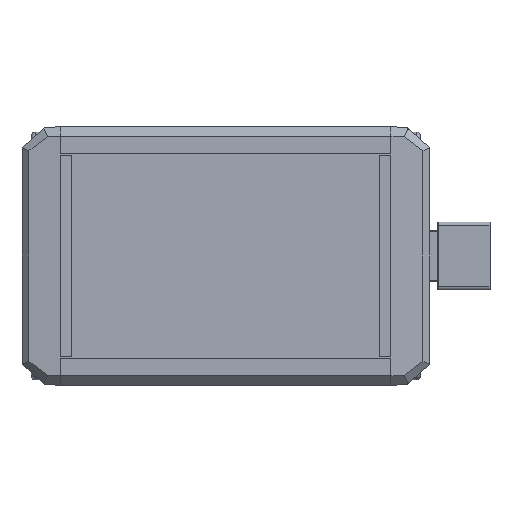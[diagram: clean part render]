
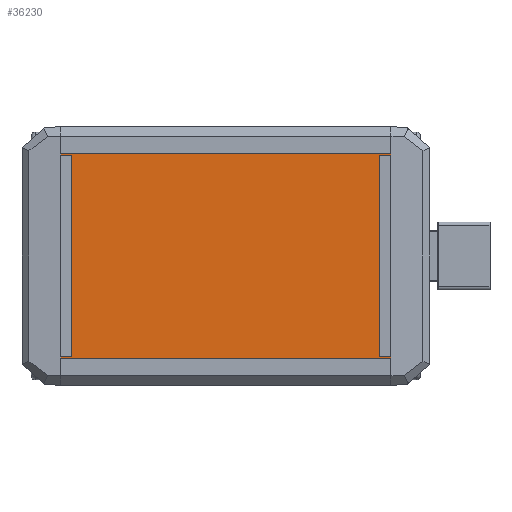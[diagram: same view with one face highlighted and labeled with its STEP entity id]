
A CAD part, front view. The second image highlights one B-rep face of the part: STEP entity #36230.
In plain terms, the highlighted planar face has unit normal (0, -1, 0) as drawn and (0, 1, 0) by its records, which use the part's own axes.
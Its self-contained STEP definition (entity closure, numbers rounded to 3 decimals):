
#36086=DIRECTION('',(-1.,0.,0.));
#36087=VECTOR('',#36086,34.6);
#36088=CARTESIAN_POINT('',(17.3,2.,-25.6));
#36089=LINE('',#36088,#36087);
#36107=DIRECTION('',(0.,0.,1.));
#36108=VECTOR('',#36107,51.2);
#36109=CARTESIAN_POINT('',(-17.3,2.,-25.6));
#36110=LINE('',#36109,#36108);
#36114=DIRECTION('',(0.,0.,1.));
#36115=VECTOR('',#36114,51.2);
#36116=CARTESIAN_POINT('',(17.3,2.,-25.6));
#36117=LINE('',#36116,#36115);
#36142=DIRECTION('',(-1.,0.,0.));
#36143=VECTOR('',#36142,34.6);
#36144=CARTESIAN_POINT('',(17.3,2.,25.6));
#36145=LINE('',#36144,#36143);
#36160=CARTESIAN_POINT('',(17.3,2.,-25.6));
#36161=VERTEX_POINT('',#36160);
#36162=CARTESIAN_POINT('',(-17.3,2.,-25.6));
#36163=VERTEX_POINT('',#36162);
#36168=CARTESIAN_POINT('',(17.3,2.,25.6));
#36169=VERTEX_POINT('',#36168);
#36170=CARTESIAN_POINT('',(-17.3,2.,25.6));
#36171=VERTEX_POINT('',#36170);
#36217=CARTESIAN_POINT('',(17.3,2.,-25.6));
#36218=DIRECTION('',(0.,1.,0.));
#36219=DIRECTION('',(-1.,0.,0.));
#36220=AXIS2_PLACEMENT_3D('',#36217,#36218,#36219);
#36221=PLANE('',#36220);
#36222=ORIENTED_EDGE('',*,*,#36181,.F.);
#36224=ORIENTED_EDGE('',*,*,#36223,.T.);
#36226=ORIENTED_EDGE('',*,*,#36225,.T.);
#36227=ORIENTED_EDGE('',*,*,#36209,.F.);
#36228=EDGE_LOOP('',(#36222,#36224,#36226,#36227));
#36229=FACE_OUTER_BOUND('',#36228,.F.);
#36181=EDGE_CURVE('',#36161,#36163,#36089,.T.);
#36209=EDGE_CURVE('',#36163,#36171,#36110,.T.);
#36223=EDGE_CURVE('',#36161,#36169,#36117,.T.);
#36225=EDGE_CURVE('',#36169,#36171,#36145,.T.);
#36230=ADVANCED_FACE('',(#36229),#36221,.T.);
